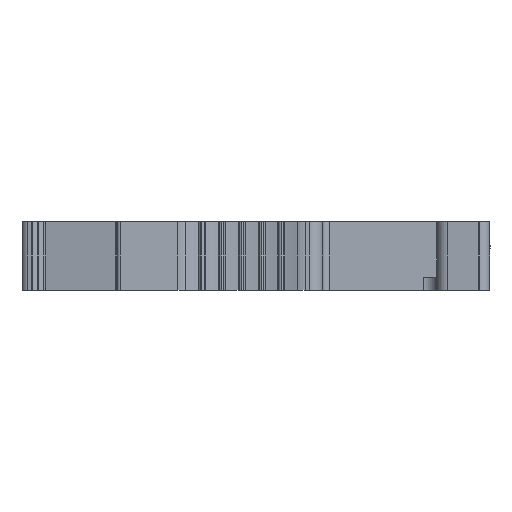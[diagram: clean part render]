
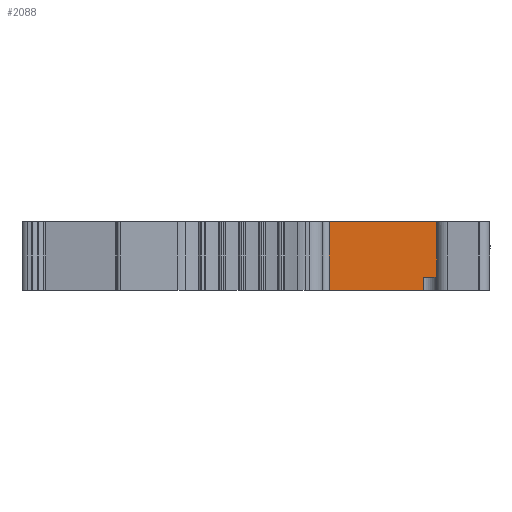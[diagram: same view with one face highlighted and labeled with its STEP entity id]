
A CAD part, left-side view. The second image highlights one B-rep face of the part: STEP entity #2088.
In plain terms, the highlighted planar face has unit normal (-1, 0, 0).
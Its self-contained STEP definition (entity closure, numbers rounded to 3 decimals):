
#2088=ADVANCED_FACE('',(#3813),#2918,.F.);
#2918=PLANE('',#22320);
#3813=FACE_OUTER_BOUND('',#4916,.T.);
#4916=EDGE_LOOP('',(#9120,#9121,#9122,#9123,#9124,#9125));
#9120=ORIENTED_EDGE('',*,*,#15613,.F.);
#9121=ORIENTED_EDGE('',*,*,#14085,.F.);
#9122=ORIENTED_EDGE('',*,*,#15614,.F.);
#9123=ORIENTED_EDGE('',*,*,#15615,.F.);
#9124=ORIENTED_EDGE('',*,*,#15616,.F.);
#9125=ORIENTED_EDGE('',*,*,#13966,.F.);
#11893=VERTEX_POINT('',#29656);
#11894=VERTEX_POINT('',#29658);
#12010=VERTEX_POINT('',#29894);
#12011=VERTEX_POINT('',#29896);
#12961=VERTEX_POINT('',#33386);
#12962=VERTEX_POINT('',#33388);
#13966=EDGE_CURVE('',#11893,#11894,#16940,.T.);
#14085=EDGE_CURVE('',#12010,#12011,#16995,.T.);
#15613=EDGE_CURVE('',#12011,#11893,#18063,.T.);
#15614=EDGE_CURVE('',#12961,#12010,#18064,.T.);
#15615=EDGE_CURVE('',#12962,#12961,#18065,.T.);
#15616=EDGE_CURVE('',#11894,#12962,#18066,.T.);
#16940=LINE('',#29657,#19124);
#16995=LINE('',#29895,#19179);
#18063=LINE('',#33383,#20247);
#18064=LINE('',#33385,#20248);
#18065=LINE('',#33387,#20249);
#18066=LINE('',#33389,#20250);
#19124=VECTOR('',#23510,1.);
#19179=VECTOR('',#23697,1.);
#20247=VECTOR('',#26709,1.);
#20248=VECTOR('',#26712,1.);
#20249=VECTOR('',#26713,1.);
#20250=VECTOR('',#26714,1.);
#22320=AXIS2_PLACEMENT_3D('',#33390,#26715,#26716);
#23510=DIRECTION('',(0.,-1.,0.));
#23697=DIRECTION('',(0.,1.,0.));
#26709=DIRECTION('',(0.,0.,1.));
#26712=DIRECTION('',(0.,0.,-1.));
#26713=DIRECTION('',(0.,1.,0.));
#26714=DIRECTION('',(0.,0.,-1.));
#26715=DIRECTION('',(1.,0.,0.));
#26716=DIRECTION('',(0.,1.,0.));
#29656=CARTESIAN_POINT('',(151.6,12.1,0.));
#29657=CARTESIAN_POINT('',(151.6,12.1,0.));
#29658=CARTESIAN_POINT('',(151.6,1.8,0.));
#29894=CARTESIAN_POINT('',(151.6,5.,-5.2));
#29895=CARTESIAN_POINT('',(151.6,5.,-5.2));
#29896=CARTESIAN_POINT('',(151.6,12.1,-5.2));
#33383=CARTESIAN_POINT('',(151.6,12.1,-5.2));
#33385=CARTESIAN_POINT('',(151.6,5.,-4.2));
#33386=CARTESIAN_POINT('',(151.6,5.,-4.2));
#33387=CARTESIAN_POINT('',(151.6,1.8,-4.2));
#33388=CARTESIAN_POINT('',(151.6,1.8,-4.2));
#33389=CARTESIAN_POINT('',(151.6,1.8,0.));
#33390=CARTESIAN_POINT('',(151.6,5.,0.));
